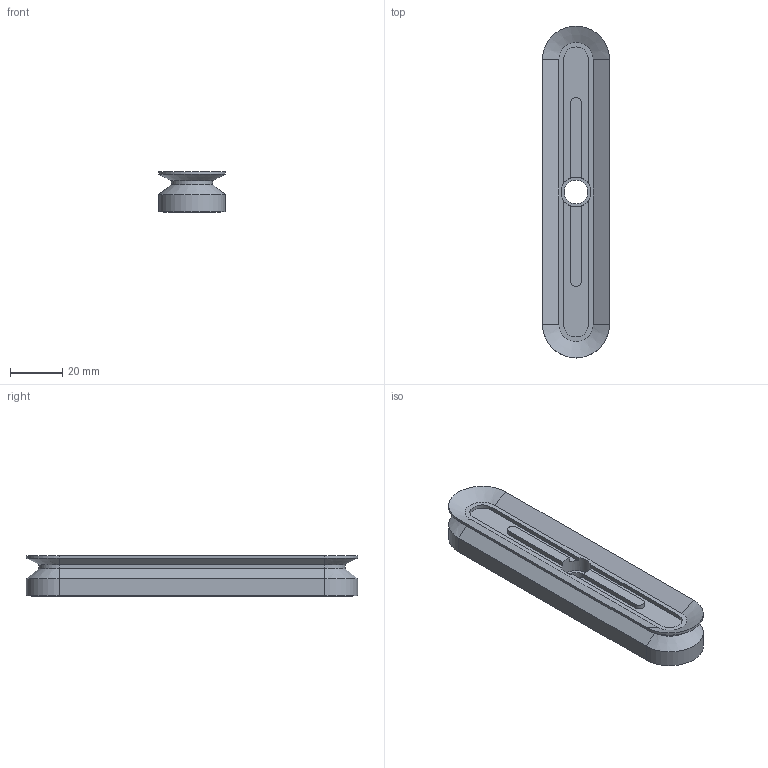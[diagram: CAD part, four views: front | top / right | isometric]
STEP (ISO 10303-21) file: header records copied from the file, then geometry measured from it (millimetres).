
FILE_DESCRIPTION (( 'STEP AP214' ), '1' );
FILE_NAME ('10FO.125X25.001.01.STEP', '2025-08-12T14:06:09', ( '' ), ( '' ), 'SwSTEP 2.0', 'SolidWorks 2025', '' );
FILE_SCHEMA (( 'AUTOMOTIVE_DESIGN' ));
Length unit declared in the file: millimetre
Products named in the file (1): 10FO.125X25.001.01
Bounding box: 25.5 x 126.6 x 15.6 mm (x, y, z)
Volume: 32242.8 mm3; surface area: 13242.7 mm2
Topology: 1 solids, 1 shells, 59 faces, 133 edges, 81 vertices
Faces by surface type: plane 33, cylinder 18, cone 8
Full cylindrical faces by diameter (mm): 5.5 x4, 9 x1, 11.43 x1
Entity records: 1618 total; most frequent: DIRECTION 287, CARTESIAN_POINT 278, ORIENTED_EDGE 252, EDGE_CURVE 126, AXIS2_PLACEMENT_3D 105, VERTEX_POINT 80, LINE 77, VECTOR 77
